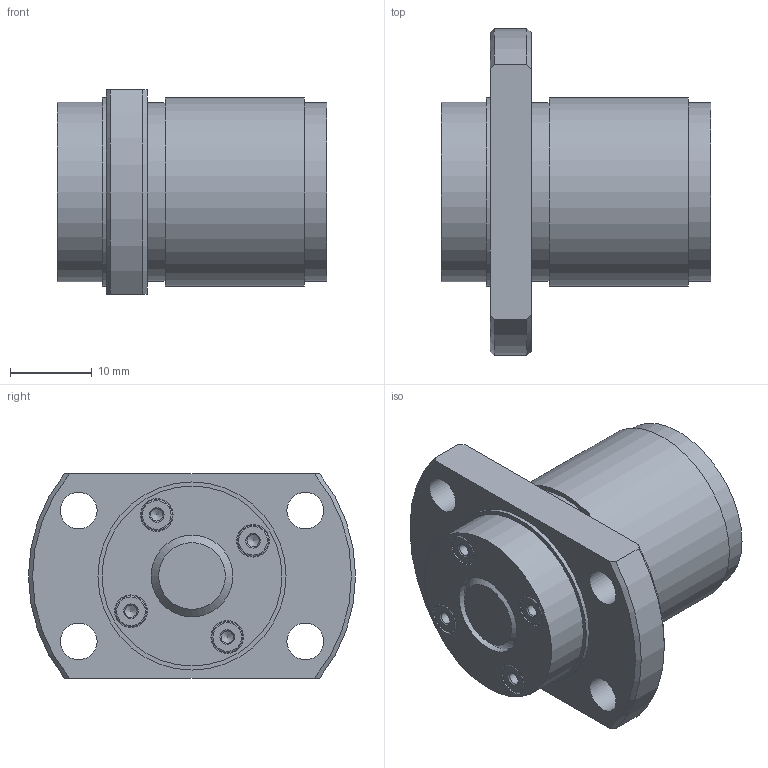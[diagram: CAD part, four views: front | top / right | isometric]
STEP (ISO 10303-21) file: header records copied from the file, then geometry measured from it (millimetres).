
FILE_DESCRIPTION(/* description */ ('STEP AP203'),/* implementation_level */ '2;1');
FILE_NAME(/* name */ 'WGF1015-3G1+33LC3_0_13_0_0',/* time_stamp */ '2025-01-16T06:24:16+01:00',/* author */ ('License CC BY-ND 4.0'),/* organization */ ('CADENAS'),/* preprocessor_version */ 'ST-DEVELOPER v19.3',/* originating_system */ 'PARTsolutions',/* authorisation */ ' ');
FILE_SCHEMA (('CONFIG_CONTROL_DESIGN'));
Length unit declared in the file: millimetre
Products named in the file (3): WGF1015-3G1+33LC3_0_13_0_0; 0130WGF1015-30Shaft; RR0130WGF1015-3Nut
Assembly tree (2 placements, depth 2):
  WGF1015-3G1+33LC3_0_13_0_0
    0130WGF1015-30Shaft
    RR0130WGF1015-3Nut
Bounding box: 33 x 40 x 25 mm (x, y, z)
Volume: 15508.5 mm3; surface area: 6945.1 mm2
Topology: 2 solids, 2 shells, 62 faces, 123 edges, 78 vertices
Faces by surface type: cylinder 25, plane 19, cone 14, torus 4
Full cylindrical faces by diameter (mm): 1.5 x4, 3.8 x4, 4 x4, 4.5 x4, 10 x2, 21.85 x2, 22 x1, 23 x2
Entity records: 1495 total; most frequent: DIRECTION 266, CARTESIAN_POINT 245, ORIENTED_EDGE 160, AXIS2_PLACEMENT_3D 129, FACE_BOUND 126, EDGE_LOOP 122, EDGE_CURVE 80, VERTEX_POINT 76
